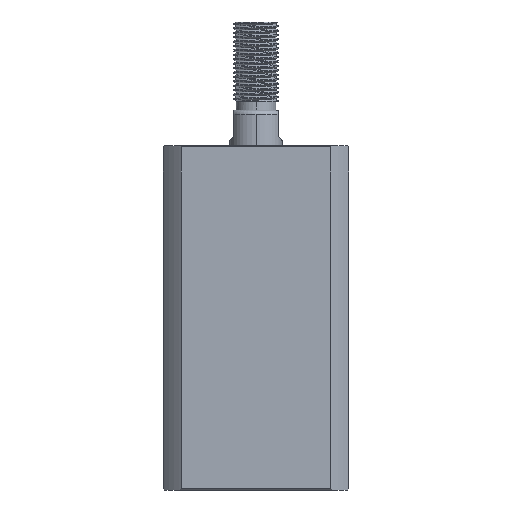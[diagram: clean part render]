
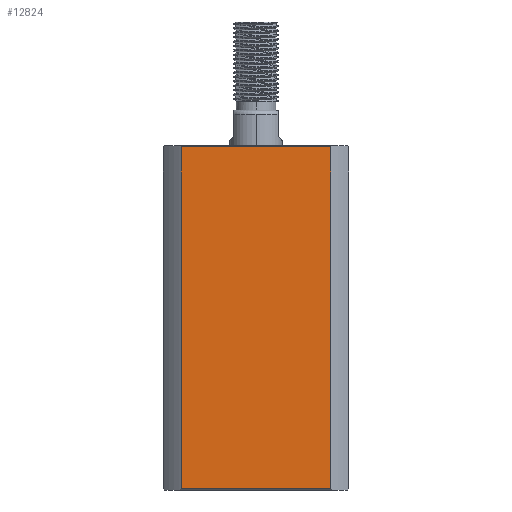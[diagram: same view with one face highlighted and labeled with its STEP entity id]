
A CAD part, left-side view. The second image highlights one B-rep face of the part: STEP entity #12824.
In plain terms, the highlighted planar face has unit normal (-1, 0, 0).
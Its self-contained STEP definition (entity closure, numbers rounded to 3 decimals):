
#292 = VECTOR ( 'NONE', #11409, 1000. ) ;
#640 = LINE ( 'NONE', #13584, #292 ) ;
#856 = DIRECTION ( 'NONE',  ( 1., 0., 0. ) ) ;
#969 = FACE_OUTER_BOUND ( 'NONE', #2822, .T. ) ;
#1104 = VECTOR ( 'NONE', #13416, 1000. ) ;
#1479 = LINE ( 'NONE', #10100, #1104 ) ;
#1578 = DIRECTION ( 'NONE',  ( 0., 0., -1. ) ) ;
#1741 = VERTEX_POINT ( 'NONE', #12458 ) ;
#1867 = CARTESIAN_POINT ( 'NONE',  ( -21., -16.971, 0.3 ) ) ;
#2822 = EDGE_LOOP ( 'NONE', ( #7709, #14028, #6675, #7742 ) ) ;
#4364 = CARTESIAN_POINT ( 'NONE',  ( -21., 21., 78. ) ) ;
#5405 = LINE ( 'NONE', #14199, #14143 ) ;
#6635 = VERTEX_POINT ( 'NONE', #12908 ) ;
#6675 = ORIENTED_EDGE ( 'NONE', *, *, #9307, .F. ) ;
#7709 = ORIENTED_EDGE ( 'NONE', *, *, #13090, .F. ) ;
#7742 = ORIENTED_EDGE ( 'NONE', *, *, #9054, .T. ) ;
#8067 = CARTESIAN_POINT ( 'NONE',  ( -21., 16.971, 77.7 ) ) ;
#8637 = AXIS2_PLACEMENT_3D ( 'NONE', #4364, #856, #9140 ) ;
#9005 = VERTEX_POINT ( 'NONE', #1867 ) ;
#9054 = EDGE_CURVE ( 'NONE', #1741, #11928, #1479, .T. ) ;
#9077 = LINE ( 'NONE', #10964, #14632 ) ;
#9140 = DIRECTION ( 'NONE',  ( 0., 1., 0. ) ) ;
#9307 = EDGE_CURVE ( 'NONE', #1741, #9005, #9077, .T. ) ;
#10100 = CARTESIAN_POINT ( 'NONE',  ( -21., 21., 77.7 ) ) ;
#10964 = CARTESIAN_POINT ( 'NONE',  ( -21., -16.971, -92. ) ) ;
#11329 = EDGE_CURVE ( 'NONE', #6635, #9005, #640, .T. ) ;
#11409 = DIRECTION ( 'NONE',  ( 0., -1., 0. ) ) ;
#11928 = VERTEX_POINT ( 'NONE', #8067 ) ;
#11963 = DIRECTION ( 'NONE',  ( 0., 0., 1. ) ) ;
#12458 = CARTESIAN_POINT ( 'NONE',  ( -21., -16.971, 77.7 ) ) ;
#12824 = ADVANCED_FACE ( 'NONE', ( #969 ), #13536, .F. ) ;
#12908 = CARTESIAN_POINT ( 'NONE',  ( -21., 16.971, 0.3 ) ) ;
#13090 = EDGE_CURVE ( 'NONE', #6635, #11928, #5405, .T. ) ;
#13416 = DIRECTION ( 'NONE',  ( 0., 1., 0. ) ) ;
#13536 = PLANE ( 'NONE',  #8637 ) ;
#13584 = CARTESIAN_POINT ( 'NONE',  ( -21., 21., 0.3 ) ) ;
#14028 = ORIENTED_EDGE ( 'NONE', *, *, #11329, .T. ) ;
#14143 = VECTOR ( 'NONE', #11963, 1000. ) ;
#14199 = CARTESIAN_POINT ( 'NONE',  ( -21., 16.971, -92. ) ) ;
#14632 = VECTOR ( 'NONE', #1578, 1000. ) ;
